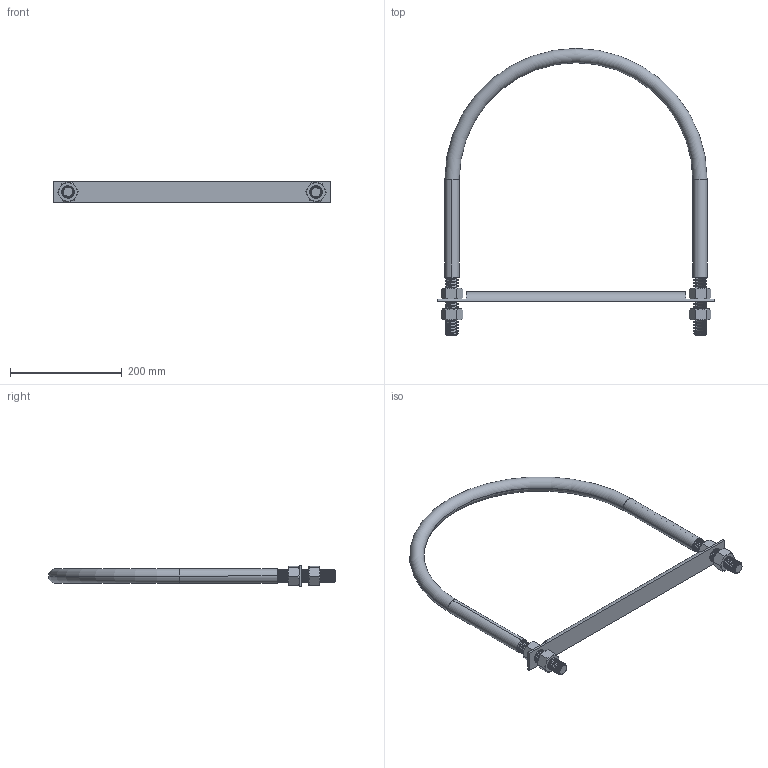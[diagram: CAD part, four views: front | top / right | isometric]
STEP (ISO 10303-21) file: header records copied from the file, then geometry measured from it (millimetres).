
FILE_DESCRIPTION (( 'STEP AP214' ), '1' );
FILE_NAME ('NUB1474.STEP', '2022-04-04T17:47:20', ( '' ), ( '' ), 'SwSTEP 2.0', 'SolidWorks 2021', '' );
FILE_SCHEMA (( 'AUTOMOTIVE_DESIGN' ));
Length unit declared in the file: inch
Products named in the file (4): ROD0648_IR21-16 XL [ROD0647]; FAS0049; UBT1001_UBT21-16-0.875-9 XL [NUB1474]; NUB1474
Assembly tree (6 placements, depth 2):
  NUB1474
    FAS0049  x4
    UBT1001_UBT21-16-0.875-9 XL [NUB1474]
    ROD0648_IR21-16 XL [ROD0647]
Bounding box: 495.3 x 514.45 x 38.02 mm (x, y, z)
Volume: 882838.8 mm3; surface area: 322999.5 mm2
Topology: 7 solids, 7 shells, 307 faces, 799 edges, 506 vertices
Faces by surface type: cylinder 182, cone 70, plane 45, torus 6, bspline 4
Entity records: 17994 total; most frequent: CARTESIAN_POINT 12829, ORIENTED_EDGE 1238, DIRECTION 807, EDGE_CURVE 619, VERTEX_POINT 404, AXIS2_PLACEMENT_3D 302, EDGE_LOOP 231, FACE_OUTER_BOUND 223
